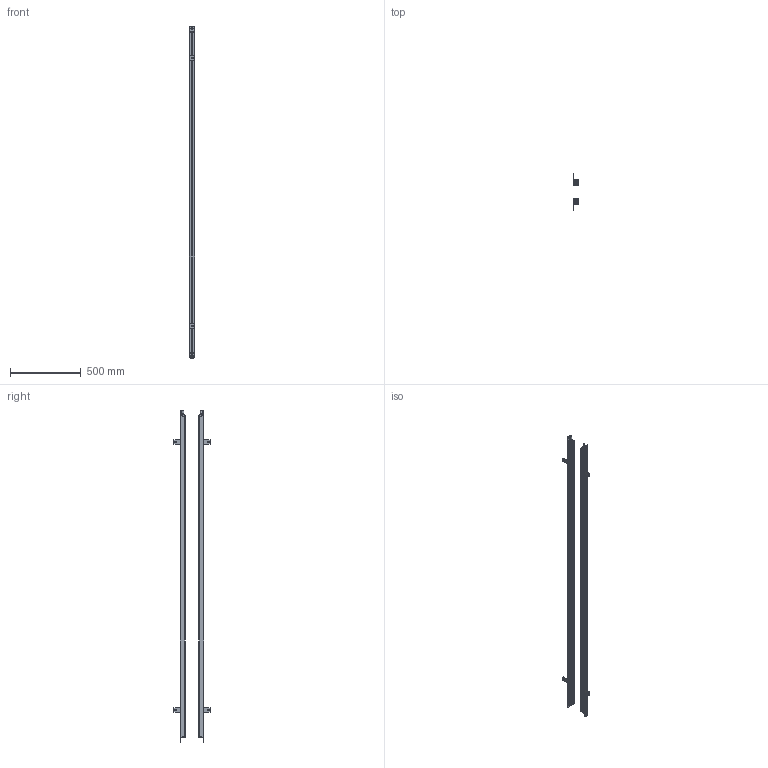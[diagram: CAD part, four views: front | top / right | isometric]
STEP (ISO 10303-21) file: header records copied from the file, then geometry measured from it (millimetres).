
FILE_DESCRIPTION(/* description */ (''),/* implementation_level */ '2;1');
FILE_NAME(/* name */ '5640_35X35.stp',/* time_stamp */ '2023-09-18T16:08:35+08:00',/* author */ (''),/* organization */ (''),/* preprocessor_version */ 'ST-DEVELOPER v16.7',/* originating_system */ 'SIEMENS PLM Software NX 12.0',/* authorisation */ '');
FILE_SCHEMA (('AP203_CONFIGURATION_CONTROLLED_3D_DESIGN_OF_MECHANICAL_PARTS_AND_ASSEMBLIES_MIM_LF { 1 0 10303 403 2 1 2}'));
Length unit declared in the file: millimetre
Products named in the file (1): 5040_35X35_stp
Bounding box: 35.41 x 258.01 x 2341.6 mm (x, y, z)
Volume: 2164656.7 mm3; surface area: 1616519.9 mm2
Topology: 28 solids, 28 shells, 1182 faces, 3360 edges, 2260 vertices
Faces by surface type: plane 658, cylinder 464, cone 60
Full cylindrical faces by diameter (mm): 3.2 x8, 6 x24, 13 x2, 14.4 x2, 15 x2
Entity records: 39055 total; most frequent: DIRECTION 6832, CARTESIAN_POINT 6745, ORIENTED_EDGE 6612, EDGE_CURVE 3306, AXIS2_PLACEMENT_3D 2347, VERTEX_POINT 2244, LINE 2138, VECTOR 2138
